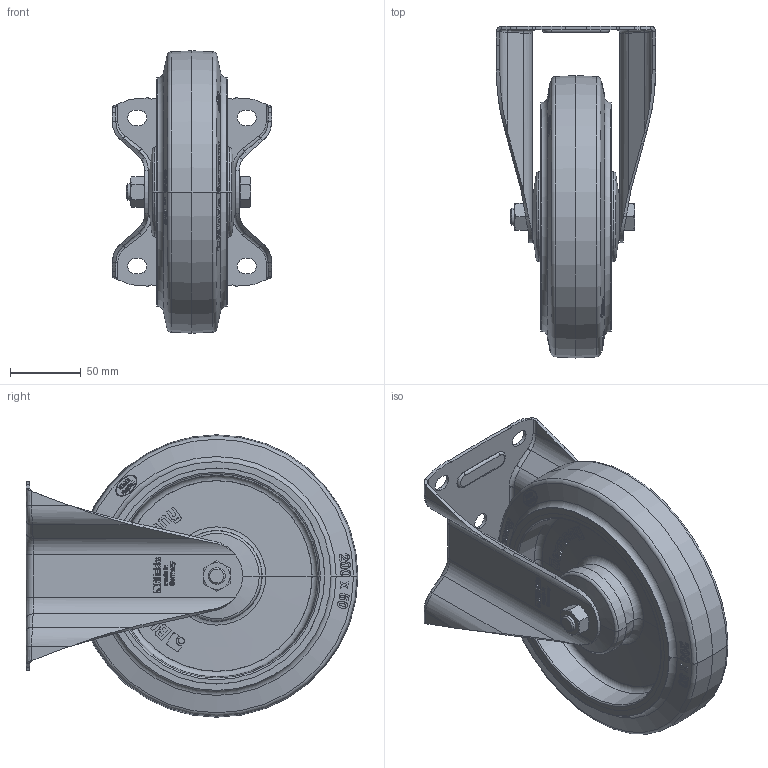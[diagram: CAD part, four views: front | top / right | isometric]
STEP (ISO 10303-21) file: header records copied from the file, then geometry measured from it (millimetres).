
FILE_DESCRIPTION (( 'STEP AP214' ), '1' );
FILE_NAME ('B-POEV_200K-SB_618389-214.step', '2021-11-16T11:44:30', ( '' ), ( '' ), 'SwSTEP 2.0', 'SolidWorks 2018', '' );
FILE_SCHEMA (( 'AUTOMOTIVE_DESIGN' ));
Length unit declared in the file: millimetre
Products named in the file (5): POEV_200_12K-SB_G16_3D; GH-B_140-200_GH-B-200x60-03_12x62; GH-B-200x60-03_12x62_G16_3D; B-POEV_200K-SB_618389-214; POEV_200_3D_G16_POEV_200_12K-SB_905330
Assembly tree (4 placements, depth 3):
  B-POEV_200K-SB_618389-214
    GH-B_140-200_GH-B-200x60-03_12x62
      GH-B-200x60-03_12x62_G16_3D
    POEV_200_3D_G16_POEV_200_12K-SB_905330
      POEV_200_12K-SB_G16_3D
Bounding box: 113 x 235 x 200 mm (x, y, z)
Volume: 936676.8 mm3; surface area: 235394.5 mm2
Topology: 2 solids, 9 shells, 3637 faces, 9846 edges, 6439 vertices
Faces by surface type: bspline 1513, plane 1448, cone 323, torus 202, cylinder 151
Entity records: 158239 total; most frequent: CARTESIAN_POINT 68144, ORIENTED_EDGE 19692, DIRECTION 9964, EDGE_CURVE 9846, VERTEX_POINT 6439, B_SPLINE_CURVE_WITH_KNOTS 5043, EDGE_LOOP 3909, VECTOR 3904
